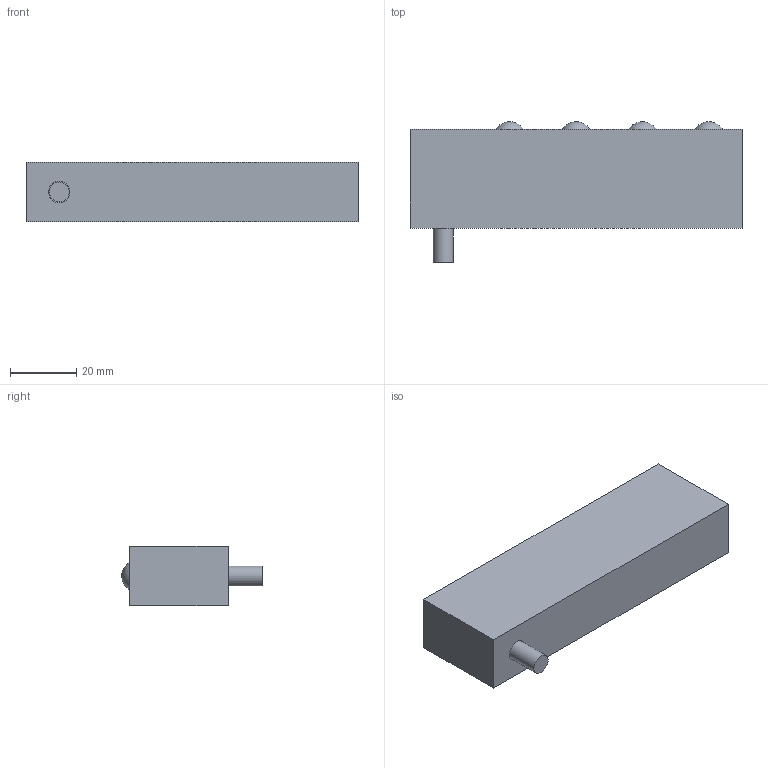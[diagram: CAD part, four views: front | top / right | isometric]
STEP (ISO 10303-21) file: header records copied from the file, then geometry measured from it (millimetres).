
FILE_DESCRIPTION(/* description */ (''),/* implementation_level */ '2;1');
FILE_NAME(/* name */ 'V:\Shrinkwrap\EMB\EMB - SHRINKWRAP\EMB18-4_Shrinkwrap_1.stp',/* time_stamp */ '2022-08-12T09:50:00+02:00',/* author */ ('cw'),/* organization */ (''),/* preprocessor_version */ 'ST-DEVELOPER v17',/* originating_system */ 'Autodesk Inventor 2019',/* authorisation */ '');
FILE_SCHEMA (('AUTOMOTIVE_DESIGN { 1 0 10303 214 3 1 1 }'));
Length unit declared in the file: millimetre
Products named in the file (1): EMB18-4_Shrinkwrap_1
Bounding box: 100 x 42.27 x 17.8 mm (x, y, z)
Volume: 52136.4 mm3; surface area: 12104.1 mm2
Topology: 1 solids, 1 shells, 18 faces, 32 edges, 26 vertices
Faces by surface type: plane 10, sphere 4, cylinder 4
Full cylindrical faces by diameter (mm): 6 x1, 6.5 x1, 10 x1, 11 x1
Entity records: 532 total; most frequent: DIRECTION 82, CARTESIAN_POINT 75, ORIENTED_EDGE 60, AXIS2_PLACEMENT_3D 33, EDGE_CURVE 30, EDGE_LOOP 26, VERTEX_POINT 22, STYLED_ITEM 21
